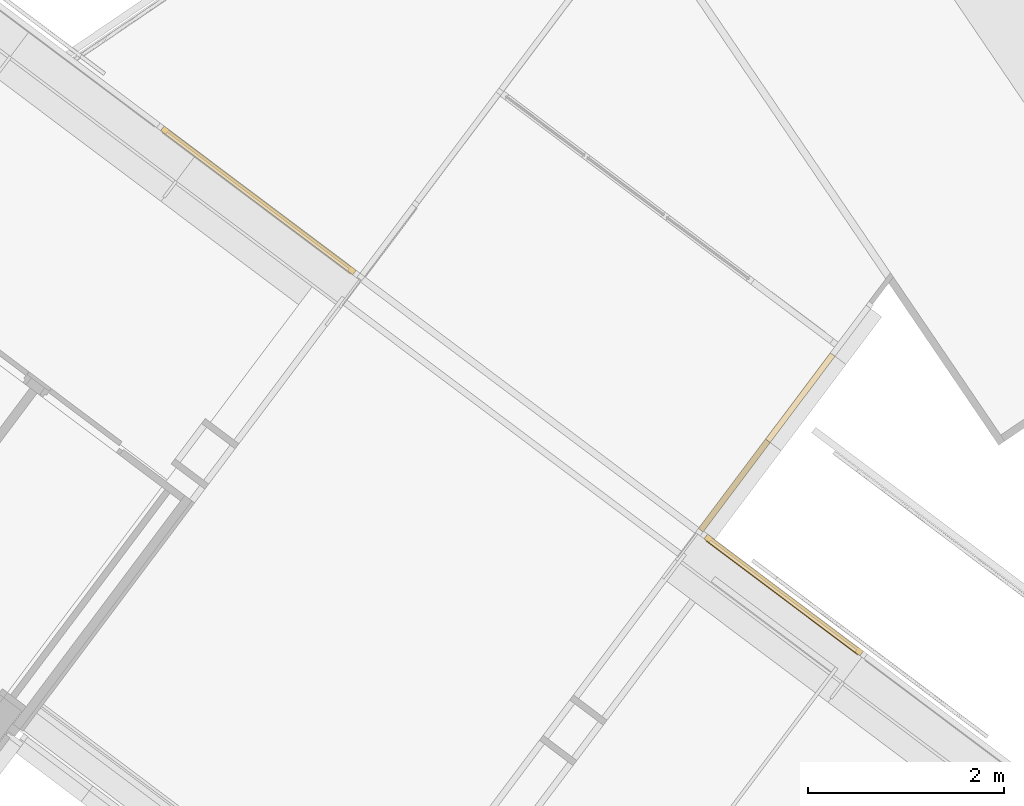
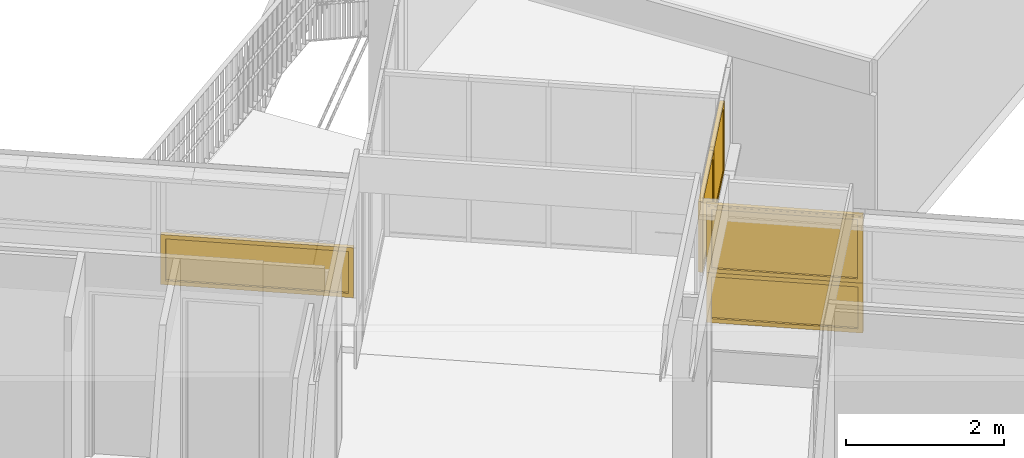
# One storey, part 235 of 243: 5 windows, 3 elements without a shape of their own.
"""IFC2X3 building model written with IfcOpenShell, lengths in metres."""

from ifc_helpers import new_model, entity, si_unit, converted_unit, derived_unit, direction, frame, origin, place, context, subcontext, project, spatial, faceted_brep, source, transform, mapped, material, material_list, type_object, type_shapes, element, aggregate, save


model = new_model("IFC2X3")

# Units and contexts
model_context = context("Model", 3, precision=1e-05, world=origin(), true_north=direction((6.123031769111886e-17, 1.0)))
body_context = subcontext(model_context, "Body", "Model", "MODEL_VIEW")
ifc_project = project(units=[si_unit("LENGTHUNIT", "METRE"), si_unit("AREAUNIT", "SQUARE_METRE"), si_unit("VOLUMEUNIT", "CUBIC_METRE"), converted_unit("PLANEANGLEUNIT", "DEGREE", entity("IfcRatioMeasure", 0.017453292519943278), si_unit("PLANEANGLEUNIT", "RADIAN"), dimensions=[0, 0, 0, 0, 0, 0, 0]), si_unit("MASSUNIT", "GRAM", prefix="KILO"), derived_unit("MASSDENSITYUNIT", [(si_unit("MASSUNIT", "GRAM", prefix="KILO"), 1), (si_unit("LENGTHUNIT", "METRE"), -3)]), derived_unit("IONCONCENTRATIONUNIT", [(si_unit("MASSUNIT", "GRAM", prefix="KILO"), 1), (si_unit("LENGTHUNIT", "METRE"), -3)]), derived_unit("MOMENTOFINERTIAUNIT", [(si_unit("LENGTHUNIT", "METRE"), 4)]), si_unit("TIMEUNIT", "SECOND"), si_unit("FREQUENCYUNIT", "HERTZ"), si_unit("THERMODYNAMICTEMPERATUREUNIT", "DEGREE_CELSIUS"), derived_unit("THERMALTRANSMITTANCEUNIT", [(si_unit("MASSUNIT", "GRAM", prefix="KILO"), 1), (si_unit("THERMODYNAMICTEMPERATUREUNIT", "KELVIN"), -1), (si_unit("TIMEUNIT", "SECOND"), -3)]), derived_unit("THERMALCONDUCTANCEUNIT", [(si_unit("MASSUNIT", "GRAM", prefix="KILO"), 1), (si_unit("THERMODYNAMICTEMPERATUREUNIT", "KELVIN"), -1), (si_unit("TIMEUNIT", "SECOND"), -3), (si_unit("LENGTHUNIT", "METRE"), 1)]), derived_unit("VOLUMETRICFLOWRATEUNIT", [(si_unit("LENGTHUNIT", "METRE"), 3), (si_unit("TIMEUNIT", "SECOND"), -1)]), derived_unit("MASSFLOWRATEUNIT", [(si_unit("MASSUNIT", "GRAM", prefix="KILO"), 1), (si_unit("TIMEUNIT", "SECOND"), -1)]), derived_unit("ROTATIONALFREQUENCYUNIT", [(si_unit("TIMEUNIT", "SECOND"), -1)]), si_unit("ELECTRICCURRENTUNIT", "AMPERE"), si_unit("ELECTRICVOLTAGEUNIT", "VOLT"), si_unit("POWERUNIT", "WATT"), si_unit("FORCEUNIT", "NEWTON", prefix="KILO"), si_unit("ILLUMINANCEUNIT", "LUX"), si_unit("LUMINOUSFLUXUNIT", "LUMEN"), si_unit("LUMINOUSINTENSITYUNIT", "CANDELA"), derived_unit("USERDEFINED", [(si_unit("MASSUNIT", "GRAM", prefix="KILO"), -1), (si_unit("LENGTHUNIT", "METRE"), -2), (si_unit("TIMEUNIT", "SECOND"), 3), (si_unit("LUMINOUSFLUXUNIT", "LUMEN"), 1)]), derived_unit("USERDEFINED", [(si_unit("MASSUNIT", "GRAM", prefix="KILO"), 1), (si_unit("TIMEUNIT", "SECOND"), -3), (si_unit("LENGTHUNIT", "METRE"), 3), (si_unit("ELECTRICCURRENTUNIT", "AMPERE"), -2)]), derived_unit("SOUNDPOWERUNIT", [(si_unit("MASSUNIT", "GRAM", prefix="KILO"), 1), (si_unit("TIMEUNIT", "SECOND"), -3), (si_unit("LENGTHUNIT", "METRE"), 2)]), derived_unit("SOUNDPRESSUREUNIT", [(si_unit("MASSUNIT", "GRAM", prefix="KILO"), 1), (si_unit("LENGTHUNIT", "METRE"), -1), (si_unit("TIMEUNIT", "SECOND"), -2)]), derived_unit("LINEARVELOCITYUNIT", [(si_unit("LENGTHUNIT", "METRE"), 1), (si_unit("TIMEUNIT", "SECOND"), -1)]), si_unit("PRESSUREUNIT", "PASCAL"), derived_unit("USERDEFINED", [(si_unit("MASSUNIT", "GRAM", prefix="KILO"), 1), (si_unit("LENGTHUNIT", "METRE"), -2), (si_unit("TIMEUNIT", "SECOND"), -2)]), derived_unit("LINEARFORCEUNIT", [(si_unit("MASSUNIT", "GRAM", prefix="KILO"), 1), (si_unit("TIMEUNIT", "SECOND"), -2)]), derived_unit("PLANARFORCEUNIT", [(si_unit("MASSUNIT", "GRAM", prefix="KILO"), 1), (si_unit("LENGTHUNIT", "METRE"), -1), (si_unit("TIMEUNIT", "SECOND"), -2)]), derived_unit("SPECIFICHEATCAPACITYUNIT", [(si_unit("THERMODYNAMICTEMPERATUREUNIT", "KELVIN"), -1), (si_unit("LENGTHUNIT", "METRE"), 2), (si_unit("TIMEUNIT", "SECOND"), -2)]), derived_unit("HEATINGVALUEUNIT", [(si_unit("LENGTHUNIT", "METRE"), 2), (si_unit("TIMEUNIT", "SECOND"), -2)]), derived_unit("VAPORPERMEABILITYUNIT", [(si_unit("LENGTHUNIT", "METRE"), -1), (si_unit("TIMEUNIT", "SECOND"), 1)]), derived_unit("DYNAMICVISCOSITYUNIT", [(si_unit("MASSUNIT", "GRAM", prefix="KILO"), 1), (si_unit("TIMEUNIT", "SECOND"), -1), (si_unit("LENGTHUNIT", "METRE"), -1)]), derived_unit("THERMALEXPANSIONCOEFFICIENTUNIT", [(si_unit("THERMODYNAMICTEMPERATUREUNIT", "KELVIN"), -1)]), derived_unit("MODULUSOFELASTICITYUNIT", [(si_unit("MASSUNIT", "GRAM", prefix="KILO"), 1), (si_unit("LENGTHUNIT", "METRE"), -1), (si_unit("TIMEUNIT", "SECOND"), -2)]), derived_unit("ISOTHERMALMOISTURECAPACITYUNIT", [(si_unit("LENGTHUNIT", "METRE"), 3), (si_unit("MASSUNIT", "GRAM", prefix="KILO"), -1)]), derived_unit("MOISTUREDIFFUSIVITYUNIT", [(si_unit("TIMEUNIT", "SECOND"), -1), (si_unit("LENGTHUNIT", "METRE"), 2)])], contexts=[model_context])

# Site, building, storey
site_placement = place(None, frame((0.0, 0.0, 235.0), z_axis=(0.0, 0.0, 1.0), x_axis=(-0.7996477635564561, 0.6004693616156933, 0.0)))
site = spatial("IfcSite", under=ifc_project, at=site_placement, Name="Default", CompositionType="ELEMENT")
building_placement = place(site_placement, origin())
building = spatial("IfcBuilding", under=site, at=building_placement, CompositionType="ELEMENT")
storey_placement = place(building_placement, origin())
storey = spatial("IfcBuildingStorey", under=building, at=storey_placement, Name="P0- Escola", CompositionType="ELEMENT", Elevation=0.0)

# Curtain wall, windows
curtain_wall_type_1 = type_object("IfcCurtainWallType", Name="Muro cortina:MC- EXT- MC6", PredefinedType="NOTDEFINED")
curtain_wall_1_placement = place(storey_placement, origin())
curtain_wall_1 = element("IfcCurtainWall", 1, at=curtain_wall_1_placement, inside=storey, type_object=curtain_wall_type_1, Name="Muro cortina:MC- EXT- MC6", ObjectType="Muro cortina:MC- EXT- MC6")
ifc_material_1 = material(Name="_Vidre")
ifc_material_2 = material(Name="_Alumini- T1- Perfil")
ifc_material_list = material_list([ifc_material_1, ifc_material_2])
window_style_1 = type_object("IfcWindowStyle", Name="MC- Alu- Conjunt vidre fix- 62x60 cm:MC- Alu- Conjunt vidre fix- 62x60 cm", ConstructionType="NOTDEFINED", OperationType="NOTDEFINED", ParameterTakesPrecedence=False, Sizeable=False, material=ifc_material_list)
shared_shape_1 = source(origin(), body_context, "Body", "Brep", [
    faceted_brep([(0.9458655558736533, -0.007600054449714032, 0.048806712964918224), (0.9458655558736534, -0.03160022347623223, 0.048806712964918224), (-0.9458655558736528, -0.03160022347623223, 0.048806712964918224), (-0.9458655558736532, -0.007600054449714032, 0.048806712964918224), (0.9458655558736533, -0.007600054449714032, 0.7210000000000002), (-0.945865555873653, -0.007600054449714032, 0.7210000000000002), (-0.9458655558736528, -0.03160022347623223, 0.7210000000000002), (0.9458655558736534, -0.03160022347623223, 0.7210000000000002)], [[[0, 1, 2, 3]], [[4, 0, 3, 5]], [[5, 3, 2, 6]], [[6, 2, 1, 7]], [[7, 1, 0, 4]], [[4, 5, 6, 7]]]),
    faceted_brep([(0.9946722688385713, -0.05999999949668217, 0.7700000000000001), (0.9946722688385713, -0.05999999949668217, 0.0), (0.9946722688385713, 0.0, 0.0), (0.9946722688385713, 0.0, 0.77), (-0.9946722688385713, 0.0, 0.7700000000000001), (-0.9946722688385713, 0.0, 0.0), (0.9318654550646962, 0.0, 0.707193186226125), (-0.9318654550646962, 0.0, 0.707193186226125), (-0.9318654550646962, 0.0, 0.06280681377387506), (0.9318654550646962, 0.0, 0.06280681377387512), (-0.9946722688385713, -0.05999999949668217, 0.0), (-0.9946722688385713, -0.05999999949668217, 0.7700000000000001), (-0.9318683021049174, -0.05999999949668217, 0.7071960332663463), (0.9318683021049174, -0.05999999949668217, 0.7071960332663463), (0.9318683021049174, -0.05999999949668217, 0.06280396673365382), (-0.9318683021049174, -0.05999999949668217, 0.06280396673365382), (0.9318683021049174, -0.03160022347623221, 0.7071960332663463), (0.9318683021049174, -0.03160022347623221, 0.06280396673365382), (-0.9318683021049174, -0.03160022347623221, 0.0628039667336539), (-0.9318683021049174, -0.03160022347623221, 0.7071960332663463), (-0.9458655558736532, -0.03160022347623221, 0.721193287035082), (0.9458655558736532, -0.03160022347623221, 0.721193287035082), (0.9458655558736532, -0.03160022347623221, 0.048806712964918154), (-0.9458655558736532, -0.03160022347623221, 0.04880671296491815), (0.9458655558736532, -0.007600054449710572, 0.721193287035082), (0.9458655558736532, -0.007600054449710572, 0.04880671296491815), (-0.9458655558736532, -0.007600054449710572, 0.048806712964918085), (-0.9458655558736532, -0.007600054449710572, 0.721193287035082), (-0.9318654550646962, -0.007600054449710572, 0.707193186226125), (0.9318654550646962, -0.007600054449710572, 0.707193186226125), (0.9318654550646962, -0.007600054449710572, 0.06280681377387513), (-0.9318654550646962, -0.007600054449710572, 0.06280681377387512)], [[[0, 1, 2, 3]], [[4, 3, 2, 5], [6, 7, 8, 9]], [[1, 10, 5, 2]], [[0, 11, 10, 1], [12, 13, 14, 15]], [[16, 17, 14, 13]], [[17, 18, 15, 14]], [[16, 19, 18, 17], [20, 21, 22, 23]], [[24, 25, 22, 21]], [[25, 26, 23, 22]], [[24, 27, 26, 25], [28, 29, 30, 31]], [[6, 9, 30, 29]], [[9, 8, 31, 30]], [[10, 11, 4, 5]], [[18, 19, 12, 15]], [[26, 27, 20, 23]], [[8, 7, 28, 31]], [[11, 0, 3, 4]], [[19, 16, 13, 12]], [[27, 24, 21, 20]], [[7, 6, 29, 28]]], outer=[[True], [True, False], [True], [True, False], [True], [True], [False, True], [True], [True], [True, False], [True], [True], [True], [True], [True], [True], [True], [True], [True], [True]]),
])
type_shapes(window_style_1, [shared_shape_1])
window_1_placement = place(curtain_wall_1_placement, frame((61.00581587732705, -42.34019175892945, 0.685), z_axis=(0.0, 0.0, 1.0), x_axis=(-1.0, 0.0, 0.0)))
window_1 = element("IfcWindow", 2, at=window_1_placement, type_object=window_style_1, material=ifc_material_list, Name="MC- Alu- Conjunt vidre fix- 62x60 cm:MC- Alu- Conjunt vidre fix- 62x60 cm", ObjectType="MC- Alu- Conjunt vidre fix- 62x60 cm:MC- Alu- Conjunt vidre fix- 62x60 cm", OverallHeight=0.7700000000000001, OverallWidth=1.9893445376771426, context=body_context, shape_type="MappedRepresentation", body=[
    mapped(shared_shape_1, transform((0.0, 0.0, 0.0), scale=1.0)),
])
window_style_2 = type_object("IfcWindowStyle", Name="MC- Alu- Conjunt finestra basculant- 68x68 cm:MC- Alu- Conjunt finestra basculant- 68x68 cm", ConstructionType="NOTDEFINED", OperationType="NOTDEFINED", ParameterTakesPrecedence=False, Sizeable=False, material=ifc_material_list)
shared_shape_2 = source(origin(), body_context, "Body", "Brep", [
    faceted_brep([(0.9425839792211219, -0.03559830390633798, 0.051999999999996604), (-0.9425839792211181, -0.03559830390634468, 0.051999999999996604), (-0.9425839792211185, -0.011598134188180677, 0.051999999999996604), (0.9425839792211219, -0.011598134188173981, 0.051999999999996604), (0.9425839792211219, -0.035598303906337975, 0.9953027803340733), (0.9425839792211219, -0.011598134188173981, 0.9953027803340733), (-0.9425839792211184, -0.011598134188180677, 0.9953027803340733), (-0.9425839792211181, -0.03559830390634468, 0.9953027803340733)], [[[0, 1, 2, 3]], [[4, 0, 3, 5]], [[5, 3, 2, 6]], [[6, 2, 1, 7]], [[7, 1, 0, 4]], [[4, 5, 6, 7]]]),
    faceted_brep([(-0.9268831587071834, -0.009998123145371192, 0.9796019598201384), (-0.9268831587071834, -0.009998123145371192, 0.06789804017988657), (-0.9268831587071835, -0.007998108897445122, 0.06789804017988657), (-0.9268831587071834, -0.007998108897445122, 0.9796019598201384), (-0.9557811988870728, -0.007998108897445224, 1.008500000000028), (0.9557811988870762, -0.007998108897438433, 1.0085000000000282), (0.9557811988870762, -0.007998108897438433, 0.03899999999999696), (-0.955781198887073, -0.007998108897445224, 0.03899999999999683), (0.9268831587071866, -0.007998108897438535, 0.9796019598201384), (0.9268831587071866, -0.007998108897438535, 0.06789804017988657), (0.9268831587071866, -0.009998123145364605, 0.06789804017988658), (0.9268831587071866, -0.009998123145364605, 0.9796019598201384), (0.9425839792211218, -0.00999812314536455, 0.9953027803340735), (-0.9425839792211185, -0.00999812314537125, 0.9953027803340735), (-0.9425839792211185, -0.00999812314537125, 0.05219721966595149), (0.9425839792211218, -0.00999812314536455, 0.052197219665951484), (-0.9425839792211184, -0.040799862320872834, 0.9953027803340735), (-0.9425839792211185, -0.040799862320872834, 0.052197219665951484), (0.9425839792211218, -0.04079986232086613, 0.052197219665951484), (0.9425839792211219, -0.04079986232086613, 0.9953027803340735), (0.9268831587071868, -0.040799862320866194, 0.9796019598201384), (-0.9268831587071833, -0.04079986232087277, 0.9796019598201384), (-0.9268831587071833, -0.04079986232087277, 0.06789804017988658), (0.9268831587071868, -0.040799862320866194, 0.06789804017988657), (-0.9268831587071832, -0.06800005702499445, 0.9796019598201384), (-0.9268831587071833, -0.06800005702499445, 0.06789804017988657), (0.9268831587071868, -0.06800005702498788, 0.06789804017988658), (0.926883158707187, -0.06800005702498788, 0.9796019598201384), (0.9732851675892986, -0.06800005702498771, 1.0260039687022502), (-0.9732851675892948, -0.06800005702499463, 1.0260039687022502), (-0.9732851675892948, -0.06800005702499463, 0.021496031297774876), (0.9732851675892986, -0.06800005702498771, 0.02149603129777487), (-0.973285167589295, -0.06450003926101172, 1.0260039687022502), (-0.973285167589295, -0.06450003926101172, 0.02149603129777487), (0.9732851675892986, -0.06450003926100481, 0.021496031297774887), (0.9732851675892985, -0.06450003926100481, 1.0260039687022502), (0.9557811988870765, -0.06450003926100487, 1.0085000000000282), (-0.9557811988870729, -0.06450003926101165, 1.0085000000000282), (-0.9557811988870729, -0.06450003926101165, 0.03899999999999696), (0.9557811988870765, -0.06450003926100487, 0.038999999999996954)], [[[0, 1, 2, 3]], [[4, 5, 6, 7], [8, 3, 2, 9]], [[1, 10, 9, 2]], [[0, 11, 10, 1], [12, 13, 14, 15]], [[16, 17, 14, 13]], [[17, 18, 15, 14]], [[16, 19, 18, 17], [20, 21, 22, 23]], [[24, 25, 22, 21]], [[25, 26, 23, 22]], [[24, 27, 26, 25], [28, 29, 30, 31]], [[32, 33, 30, 29]], [[33, 34, 31, 30]], [[32, 35, 34, 33], [36, 37, 38, 39]], [[4, 7, 38, 37]], [[7, 6, 39, 38]], [[10, 11, 8, 9]], [[18, 19, 12, 15]], [[26, 27, 20, 23]], [[34, 35, 28, 31]], [[6, 5, 36, 39]], [[11, 0, 3, 8]], [[19, 16, 13, 12]], [[27, 24, 21, 20]], [[35, 32, 29, 28]], [[5, 4, 37, 36]]], outer=[[True], [True, False], [True], [False, True], [True], [True], [True, False], [True], [True], [False, True], [True], [True], [True, False], [True], [True], [True], [True], [True], [True], [True], [True], [True], [True], [True], [True]]),
    faceted_brep([(0.9318654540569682, 0.0, 0.9846931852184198), (0.9318654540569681, 0.0, 0.06280681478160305), (0.9318654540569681, -0.0040000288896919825, 0.06280681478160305), (0.9318654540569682, -0.0040000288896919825, 0.9846931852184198), (-0.9318654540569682, -0.0040000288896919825, 0.9846931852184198), (-0.9318654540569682, -0.0040000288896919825, 0.06280681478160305), (0.9672720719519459, -0.0040000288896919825, 1.0200998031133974), (-0.9672720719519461, -0.0040000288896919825, 1.0200998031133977), (-0.9672720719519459, -0.0040000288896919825, 0.02740019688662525), (0.9672720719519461, -0.0040000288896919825, 0.02740019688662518), (-0.9318654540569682, 0.0, 0.062806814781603), (-0.9318654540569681, 0.0, 0.9846931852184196), (-0.9946722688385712, 0.0, 1.0475000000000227), (0.9946722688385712, 0.0, 1.0475000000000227), (0.9946722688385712, 0.0, 0.0), (-0.9946722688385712, 0.0, 0.0), (0.9946722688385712, -0.05999999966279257, 1.0475000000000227), (0.994672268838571, -0.05999999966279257, 0.0), (-0.9946722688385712, -0.05999999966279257, 0.0), (-0.994672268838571, -0.05999999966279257, 1.0475000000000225), (-0.9672720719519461, -0.05999999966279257, 1.0200998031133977), (0.9672720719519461, -0.05999999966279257, 1.0200998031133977), (0.9672720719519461, -0.05999999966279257, 0.027400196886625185), (-0.9672720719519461, -0.05999999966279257, 0.02740019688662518)], [[[0, 1, 2, 3]], [[4, 3, 2, 5], [6, 7, 8, 9]], [[1, 10, 5, 2]], [[0, 11, 10, 1], [12, 13, 14, 15]], [[16, 17, 14, 13]], [[17, 18, 15, 14]], [[16, 19, 18, 17], [20, 21, 22, 23]], [[6, 9, 22, 21]], [[9, 8, 23, 22]], [[10, 11, 4, 5]], [[18, 19, 12, 15]], [[8, 7, 20, 23]], [[11, 0, 3, 4]], [[19, 16, 13, 12]], [[7, 6, 21, 20]]], outer=[[True], [False, True], [True], [False, True], [True], [True], [True, False], [True], [True], [True], [True], [True], [True], [True], [True]]),
])
type_shapes(window_style_2, [shared_shape_2])
window_2_placement = place(curtain_wall_1_placement, frame((61.00581587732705, -42.34019175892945, 1.455), z_axis=(0.0, 0.0, 1.0), x_axis=(-1.0, 0.0, 0.0)))
window_2 = element("IfcWindow", 3, at=window_2_placement, type_object=window_style_2, material=ifc_material_list, Name="MC- Alu- Conjunt finestra basculant- 68x68 cm:MC- Alu- Conjunt finestra basculant- 68x68 cm", ObjectType="MC- Alu- Conjunt finestra basculant- 68x68 cm:MC- Alu- Conjunt finestra basculant- 68x68 cm", OverallHeight=1.0475000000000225, OverallWidth=1.9893445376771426, context=body_context, shape_type="MappedRepresentation", body=[
    mapped(shared_shape_2, transform((0.0, 0.0, 0.0), scale=1.0)),
])
aggregate(curtain_wall_1, [window_1, window_2])

# Curtain wall, window
curtain_wall_2_placement = place(storey_placement, origin())
curtain_wall_2 = element("IfcCurtainWall", 4, at=curtain_wall_2_placement, inside=storey, type_object=curtain_wall_type_1, Name="Muro cortina:MC- EXT- MC6", ObjectType="Muro cortina:MC- EXT- MC6")
window_style_3 = type_object("IfcWindowStyle", Name="MC- Alu- Conjunt vidre fix- 62x60 cm:MC- Alu- Conjunt vidre fix- 62x60 cm", ConstructionType="NOTDEFINED", OperationType="NOTDEFINED", ParameterTakesPrecedence=False, Sizeable=False, material=ifc_material_list)
shared_shape_3 = source(origin(), body_context, "Body", "Brep", [
    faceted_brep([(-1.1768978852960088, -0.007600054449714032, 0.048806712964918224), (1.1768978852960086, -0.007600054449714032, 0.048806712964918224), (1.1768978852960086, -0.03160022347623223, 0.048806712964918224), (-1.1768978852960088, -0.03160022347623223, 0.048806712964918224), (-1.1768978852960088, -0.007600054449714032, 0.7210000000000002), (1.1768978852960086, -0.007600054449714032, 0.7210000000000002), (1.1768978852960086, -0.03160022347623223, 0.7210000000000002), (-1.1768978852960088, -0.03160022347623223, 0.7210000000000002)], [[[0, 1, 2, 3]], [[4, 5, 1, 0]], [[5, 6, 2, 1]], [[6, 7, 3, 2]], [[7, 4, 0, 3]], [[4, 7, 6, 5]]]),
    faceted_brep([(-1.225704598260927, -0.05999999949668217, 0.7700000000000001), (-1.225704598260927, 0.0, 0.7700000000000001), (-1.225704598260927, 0.0, 0.0), (-1.225704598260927, -0.05999999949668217, 0.0), (-1.1628977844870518, 0.0, 0.707193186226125), (-1.1628977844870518, 0.0, 0.06280681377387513), (1.1628977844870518, 0.0, 0.06280681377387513), (1.1628977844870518, 0.0, 0.707193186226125), (1.225704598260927, 0.0, 0.7700000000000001), (1.225704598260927, 0.0, 0.0), (1.225704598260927, -0.05999999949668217, 0.0), (1.225704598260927, -0.05999999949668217, 0.7700000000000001), (1.1629006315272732, -0.05999999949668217, 0.7071960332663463), (1.1629006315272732, -0.05999999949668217, 0.06280396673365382), (-1.1629006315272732, -0.05999999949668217, 0.06280396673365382), (-1.1629006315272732, -0.05999999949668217, 0.7071960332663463), (-1.1629006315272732, -0.03160022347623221, 0.7071960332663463), (-1.1629006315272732, -0.03160022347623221, 0.06280396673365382), (1.1629006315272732, -0.03160022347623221, 0.06280396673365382), (1.1629006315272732, -0.03160022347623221, 0.7071960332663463), (1.1768978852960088, -0.03160022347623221, 0.721193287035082), (1.1768978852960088, -0.03160022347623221, 0.048806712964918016), (-1.1768978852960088, -0.03160022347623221, 0.04880671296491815), (-1.1768978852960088, -0.03160022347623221, 0.7211932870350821), (-1.1768978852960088, -0.007600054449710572, 0.7211932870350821), (-1.1768978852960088, -0.007600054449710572, 0.04880671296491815), (1.1768978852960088, -0.007600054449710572, 0.048806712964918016), (1.1768978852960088, -0.007600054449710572, 0.721193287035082), (1.1628977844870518, -0.007600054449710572, 0.707193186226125), (1.1628977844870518, -0.007600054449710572, 0.062806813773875), (-1.1628977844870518, -0.007600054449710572, 0.06280681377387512), (-1.1628977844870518, -0.007600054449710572, 0.7071931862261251)], [[[0, 1, 2, 3]], [[4, 5, 6, 7], [8, 9, 2, 1]], [[3, 2, 9, 10]], [[0, 3, 10, 11], [12, 13, 14, 15]], [[16, 15, 14, 17]], [[17, 14, 13, 18]], [[16, 17, 18, 19], [20, 21, 22, 23]], [[24, 23, 22, 25]], [[25, 22, 21, 26]], [[24, 25, 26, 27], [28, 29, 30, 31]], [[4, 31, 30, 5]], [[5, 30, 29, 6]], [[10, 9, 8, 11]], [[18, 13, 12, 19]], [[26, 21, 20, 27]], [[6, 29, 28, 7]], [[11, 8, 1, 0]], [[19, 12, 15, 16]], [[27, 20, 23, 24]], [[7, 28, 31, 4]]], outer=[[True], [False, True], [True], [True, False], [True], [True], [False, True], [True], [True], [True, False], [True], [True], [True], [True], [True], [True], [True], [True], [True], [True]]),
])
type_shapes(window_style_3, [shared_shape_3])
window_3_placement = place(curtain_wall_2_placement, frame((67.71384820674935, -42.34019175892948, 0.685), z_axis=(0.0, 0.0, 1.0), x_axis=(-1.0, 0.0, 0.0)))
window_3 = element("IfcWindow", 5, at=window_3_placement, type_object=window_style_3, material=ifc_material_list, Name="MC- Alu- Conjunt vidre fix- 62x60 cm:MC- Alu- Conjunt vidre fix- 62x60 cm", ObjectType="MC- Alu- Conjunt vidre fix- 62x60 cm:MC- Alu- Conjunt vidre fix- 62x60 cm", OverallHeight=0.7700000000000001, OverallWidth=2.451409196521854, context=body_context, shape_type="MappedRepresentation", body=[
    mapped(shared_shape_3, transform((0.0, 0.0, 0.0), scale=1.0)),
])
aggregate(curtain_wall_2, [window_3])

# Curtain wall, windows
curtain_wall_type_2 = type_object("IfcCurtainWallType", PredefinedType="NOTDEFINED")
curtain_wall_3_placement = place(storey_placement, origin())
curtain_wall_3 = element("IfcCurtainWall", 6, at=curtain_wall_3_placement, inside=storey, type_object=curtain_wall_type_2)
window_style_4 = type_object("IfcWindowStyle", Name="MC- Alu- Conjunt vidre fix- 62x60 cm:MC- Alu- Conjunt vidre fix- 62x60 cm", ConstructionType="NOTDEFINED", OperationType="NOTDEFINED", ParameterTakesPrecedence=False, Sizeable=False, material=ifc_material_list)
shared_shape_4 = source(origin(), body_context, "Body", "Brep", [
    faceted_brep([(0.5216923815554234, -0.007600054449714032, 0.048806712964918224), (0.5216923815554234, -0.03160022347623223, 0.048806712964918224), (-0.5216923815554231, -0.03160022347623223, 0.048806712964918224), (-0.5216923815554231, -0.007600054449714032, 0.048806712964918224), (0.5216923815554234, -0.007600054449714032, 1.0384999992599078), (-0.5216923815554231, -0.007600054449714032, 1.0384999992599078), (-0.5216923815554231, -0.03160022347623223, 1.0384999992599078), (0.5216923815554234, -0.03160022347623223, 1.0384999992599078)], [[[0, 1, 2, 3]], [[4, 0, 3, 5]], [[5, 3, 2, 6]], [[6, 2, 1, 7]], [[7, 1, 0, 4]], [[4, 5, 6, 7]]]),
    faceted_brep([(0.5704990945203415, -0.05999999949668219, 1.0874999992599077), (0.5704990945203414, -0.05999999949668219, 0.0), (0.5704990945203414, 0.0, 0.0), (0.5704990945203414, 0.0, 1.0874999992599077), (-0.5704990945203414, 0.0, 1.0874999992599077), (-0.5704990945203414, 0.0, 0.0), (0.5076922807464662, 0.0, 1.0246931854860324), (-0.5076922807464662, 0.0, 1.0246931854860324), (-0.5076922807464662, 0.0, 0.0628068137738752), (0.5076922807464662, 0.0, 0.06280681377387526), (-0.5704990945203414, -0.05999999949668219, 0.0), (-0.5704990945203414, -0.05999999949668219, 1.0874999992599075), (-0.5076951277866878, -0.05999999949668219, 1.024696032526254), (0.5076951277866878, -0.05999999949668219, 1.024696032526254), (0.5076951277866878, -0.05999999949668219, 0.0628039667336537), (-0.5076951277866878, -0.05999999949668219, 0.0628039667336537), (0.5076951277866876, -0.03160022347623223, 1.0246960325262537), (0.5076951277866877, -0.03160022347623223, 0.0628039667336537), (-0.5076951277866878, -0.03160022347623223, 0.0628039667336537), (-0.5076951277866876, -0.03160022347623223, 1.0246960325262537), (-0.5216923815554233, -0.03160022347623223, 1.0386932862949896), (0.5216923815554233, -0.03160022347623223, 1.0386932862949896), (0.5216923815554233, -0.03160022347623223, 0.048806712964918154), (-0.5216923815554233, -0.03160022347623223, 0.04880671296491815), (0.5216923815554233, -0.007600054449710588, 1.0386932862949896), (0.5216923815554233, -0.007600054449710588, 0.04880671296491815), (-0.5216923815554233, -0.007600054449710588, 0.048806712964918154), (-0.5216923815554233, -0.007600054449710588, 1.0386932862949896), (-0.5076922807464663, -0.007600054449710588, 1.0246931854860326), (0.5076922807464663, -0.007600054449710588, 1.0246931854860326), (0.5076922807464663, -0.007600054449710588, 0.06280681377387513), (-0.5076922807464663, -0.007600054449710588, 0.06280681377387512)], [[[0, 1, 2, 3]], [[4, 3, 2, 5], [6, 7, 8, 9]], [[1, 10, 5, 2]], [[0, 11, 10, 1], [12, 13, 14, 15]], [[16, 17, 14, 13]], [[17, 18, 15, 14]], [[16, 19, 18, 17], [20, 21, 22, 23]], [[24, 25, 22, 21]], [[25, 26, 23, 22]], [[24, 27, 26, 25], [28, 29, 30, 31]], [[6, 9, 30, 29]], [[9, 8, 31, 30]], [[10, 11, 4, 5]], [[18, 19, 12, 15]], [[26, 27, 20, 23]], [[8, 7, 28, 31]], [[11, 0, 3, 4]], [[19, 16, 13, 12]], [[27, 24, 21, 20]], [[7, 6, 29, 28]]], outer=[[True], [True, False], [True], [True, False], [True], [True], [False, True], [True], [True], [True, False], [True], [True], [True], [True], [True], [True], [True], [True], [True], [True]]),
])
type_shapes(window_style_4, [shared_shape_4])
window_4_placement = place(curtain_wall_3_placement, frame((62.05048814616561, -42.90069085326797, 1.4150000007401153), z_axis=(0.0, 0.0, 1.0), x_axis=(0.0, 1.0, 0.0)))
window_4 = element("IfcWindow", 7, at=window_4_placement, type_object=window_style_4, material=ifc_material_list, Name="MC- Alu- Conjunt vidre fix- 62x60 cm:MC- Alu- Conjunt vidre fix- 62x60 cm", ObjectType="MC- Alu- Conjunt vidre fix- 62x60 cm:MC- Alu- Conjunt vidre fix- 62x60 cm", OverallHeight=1.0874999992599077, OverallWidth=1.140998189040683, context=body_context, shape_type="MappedRepresentation", body=[
    mapped(shared_shape_4, transform((0.0, 0.0, 0.0), scale=1.0)),
])
window_style_5 = type_object("IfcWindowStyle", Name="MC- Alu- Conjunt vidre fix- 62x60 cm:MC- Alu- Conjunt vidre fix- 62x60 cm", ConstructionType="NOTDEFINED", OperationType="NOTDEFINED", ParameterTakesPrecedence=False, Sizeable=False, material=ifc_material_list)
shared_shape_5 = source(origin(), body_context, "Body", "Brep", [
    faceted_brep([(0.5021932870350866, -0.007600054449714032, 0.048806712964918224), (0.5021932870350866, -0.03160022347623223, 0.048806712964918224), (-0.5021932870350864, -0.03160022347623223, 0.048806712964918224), (-0.5021932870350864, -0.007600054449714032, 0.048806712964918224), (0.5021932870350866, -0.007600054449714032, 1.0384999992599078), (-0.5021932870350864, -0.007600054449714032, 1.0384999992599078), (-0.5021932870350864, -0.03160022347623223, 1.0384999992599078), (0.5021932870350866, -0.03160022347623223, 1.0384999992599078)], [[[0, 1, 2, 3]], [[4, 0, 3, 5]], [[5, 3, 2, 6]], [[6, 2, 1, 7]], [[7, 1, 0, 4]], [[4, 5, 6, 7]]]),
    faceted_brep([(0.5510000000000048, -0.05999999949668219, 1.0874999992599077), (0.5510000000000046, -0.05999999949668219, 0.0), (0.5510000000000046, 0.0, 0.0), (0.5510000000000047, 0.0, 1.0874999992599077), (-0.5510000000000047, 0.0, 1.0874999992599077), (-0.5510000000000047, 0.0, 0.0), (0.4881931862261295, 0.0, 1.0246931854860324), (-0.4881931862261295, 0.0, 1.0246931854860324), (-0.4881931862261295, 0.0, 0.0628068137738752), (0.4881931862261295, 0.0, 0.06280681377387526), (-0.5510000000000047, -0.05999999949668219, 0.0), (-0.5510000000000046, -0.05999999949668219, 1.0874999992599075), (-0.48819603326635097, -0.05999999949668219, 1.024696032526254), (0.48819603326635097, -0.05999999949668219, 1.024696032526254), (0.48819603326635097, -0.05999999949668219, 0.0628039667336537), (-0.48819603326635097, -0.05999999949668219, 0.0628039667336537), (0.4881960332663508, -0.03160022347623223, 1.0246960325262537), (0.4881960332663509, -0.03160022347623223, 0.0628039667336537), (-0.48819603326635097, -0.03160022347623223, 0.0628039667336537), (-0.48819603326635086, -0.03160022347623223, 1.0246960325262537), (-0.5021932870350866, -0.03160022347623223, 1.0386932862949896), (0.5021932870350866, -0.03160022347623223, 1.0386932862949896), (0.5021932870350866, -0.03160022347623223, 0.048806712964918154), (-0.5021932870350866, -0.03160022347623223, 0.04880671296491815), (0.5021932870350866, -0.007600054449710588, 1.0386932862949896), (0.5021932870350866, -0.007600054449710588, 0.04880671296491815), (-0.5021932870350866, -0.007600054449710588, 0.048806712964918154), (-0.5021932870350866, -0.007600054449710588, 1.0386932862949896), (-0.48819318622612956, -0.007600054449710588, 1.0246931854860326), (0.48819318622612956, -0.007600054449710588, 1.0246931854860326), (0.48819318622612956, -0.007600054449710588, 0.06280681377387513), (-0.48819318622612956, -0.007600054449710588, 0.06280681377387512)], [[[0, 1, 2, 3]], [[4, 3, 2, 5], [6, 7, 8, 9]], [[1, 10, 5, 2]], [[0, 11, 10, 1], [12, 13, 14, 15]], [[16, 17, 14, 13]], [[17, 18, 15, 14]], [[16, 19, 18, 17], [20, 21, 22, 23]], [[24, 25, 22, 21]], [[25, 26, 23, 22]], [[24, 27, 26, 25], [28, 29, 30, 31]], [[6, 9, 30, 29]], [[9, 8, 31, 30]], [[10, 11, 4, 5]], [[18, 19, 12, 15]], [[26, 27, 20, 23]], [[8, 7, 28, 31]], [[11, 0, 3, 4]], [[19, 16, 13, 12]], [[27, 24, 21, 20]], [[7, 6, 29, 28]]], outer=[[True], [True, False], [True], [True, False], [True], [True], [False, True], [True], [True], [True, False], [True], [True], [True], [True], [True], [True], [True], [True], [True], [True]]),
])
type_shapes(window_style_5, [shared_shape_5])
window_5_placement = place(curtain_wall_3_placement, frame((62.050488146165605, -44.02218994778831, 1.4150000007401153), z_axis=(0.0, 0.0, 1.0), x_axis=(0.0, 1.0, 0.0)))
window_5 = element("IfcWindow", 8, at=window_5_placement, type_object=window_style_5, material=ifc_material_list, Name="MC- Alu- Conjunt vidre fix- 62x60 cm:MC- Alu- Conjunt vidre fix- 62x60 cm", ObjectType="MC- Alu- Conjunt vidre fix- 62x60 cm:MC- Alu- Conjunt vidre fix- 62x60 cm", OverallHeight=1.0874999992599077, OverallWidth=1.1020000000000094, context=body_context, shape_type="MappedRepresentation", body=[
    mapped(shared_shape_5, transform((0.0, 0.0, 0.0), scale=1.0)),
])
aggregate(curtain_wall_3, [window_4, window_5])

save(model, "model.ifc")
